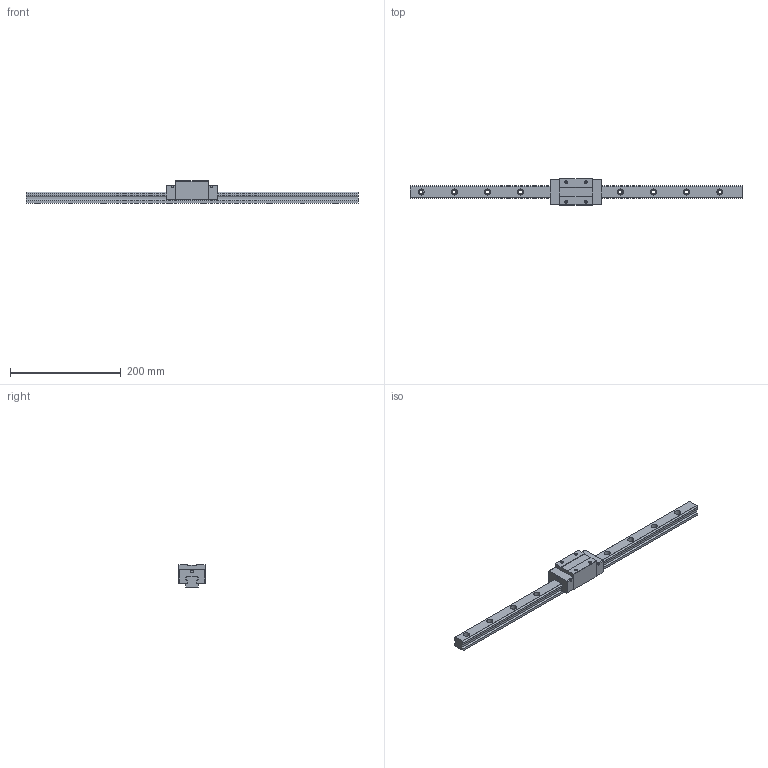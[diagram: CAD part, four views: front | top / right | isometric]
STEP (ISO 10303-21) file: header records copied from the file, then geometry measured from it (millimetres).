
FILE_DESCRIPTION (( 'STEP AP203' ), '1' );
FILE_NAME ('TRH25VN-WW.STEP', '2024-05-16T01:21:12', ( '' ), ( '' ), 'SwSTEP 2.0', 'SolidWorks 2022', '' );
FILE_SCHEMA (( 'CONFIG_CONTROL_DESIGN' ));
Length unit declared in the file: millimetre
Products named in the file (1): TRH25VN-WW
Bounding box: 600 x 48 x 40 mm (x, y, z)
Volume: 344474.2 mm3; surface area: 79906.3 mm2
Topology: 2 solids, 2 shells, 200 faces, 520 edges, 336 vertices
Faces by surface type: cylinder 96, plane 88, cone 16
Entity records: 6223 total; most frequent: DIRECTION 1114, CARTESIAN_POINT 1049, ORIENTED_EDGE 1024, EDGE_CURVE 512, AXIS2_PLACEMENT_3D 401, VERTEX_POINT 336, LINE 312, VECTOR 312
